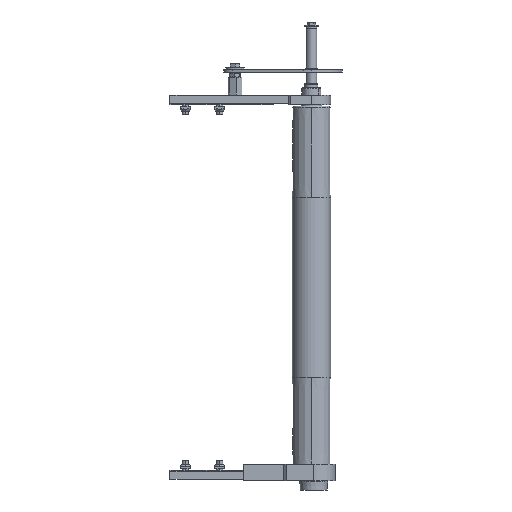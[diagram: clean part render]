
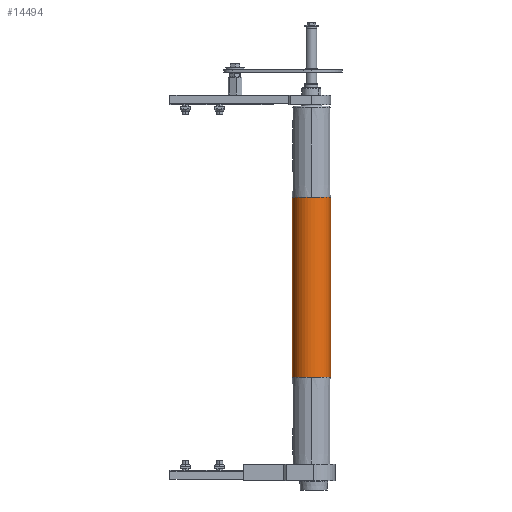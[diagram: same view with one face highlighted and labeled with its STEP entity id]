
A CAD part, front view. The second image highlights one B-rep face of the part: STEP entity #14494.
In plain terms, the highlighted cylindrical face has radius 25 mm (diameter 50 mm), a partial arc.
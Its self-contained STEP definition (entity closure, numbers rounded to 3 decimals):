
#274 = VERTEX_POINT ( 'NONE', #9108 ) ;
#720 = VERTEX_POINT ( 'NONE', #7704 ) ;
#1391 = VERTEX_POINT ( 'NONE', #17214 ) ;
#2630 = DIRECTION ( 'NONE',  ( -1., 0., 0. ) ) ;
#2857 = VECTOR ( 'NONE', #14802, 1000. ) ;
#3126 = CARTESIAN_POINT ( 'NONE',  ( 117.5, 0., -25. ) ) ;
#3199 = AXIS2_PLACEMENT_3D ( 'NONE', #8033, #4885, #6513 ) ;
#3386 = EDGE_CURVE ( 'NONE', #14508, #4621, #15448, .T. ) ;
#4242 = CARTESIAN_POINT ( 'NONE',  ( -117.5, 0., -25. ) ) ;
#4621 = VERTEX_POINT ( 'NONE', #4242 ) ;
#4721 = LINE ( 'NONE', #10922, #16574 ) ;
#4885 = DIRECTION ( 'NONE',  ( -1., 0., 0. ) ) ;
#6203 = DIRECTION ( 'NONE',  ( -1., 0., 0. ) ) ;
#6513 = DIRECTION ( 'NONE',  ( 0., -1., 0. ) ) ;
#6688 = EDGE_CURVE ( 'NONE', #7967, #4621, #4721, .T. ) ;
#7526 = DIRECTION ( 'NONE',  ( -1., 0., 0. ) ) ;
#7583 = DIRECTION ( 'NONE',  ( -1., 0., 0. ) ) ;
#7704 = CARTESIAN_POINT ( 'NONE',  ( -117.5, 0., 25. ) ) ;
#7967 = VERTEX_POINT ( 'NONE', #3126 ) ;
#8033 = CARTESIAN_POINT ( 'NONE',  ( -117.5, 0., 0. ) ) ;
#8524 = EDGE_CURVE ( 'NONE', #274, #720, #11759, .T. ) ;
#8790 = AXIS2_PLACEMENT_3D ( 'NONE', #15828, #6203, #10760 ) ;
#8892 = CARTESIAN_POINT ( 'NONE',  ( 117.5, 0., 0. ) ) ;
#9108 = CARTESIAN_POINT ( 'NONE',  ( 117.5, 0., 25. ) ) ;
#9707 = AXIS2_PLACEMENT_3D ( 'NONE', #8892, #10581, #16813 ) ;
#9879 = ORIENTED_EDGE ( 'NONE', *, *, #6688, .T. ) ;
#10581 = DIRECTION ( 'NONE',  ( -1., 0., 0. ) ) ;
#10760 = DIRECTION ( 'NONE',  ( 0., 0., 1. ) ) ;
#10897 = CARTESIAN_POINT ( 'NONE',  ( -117.5, 25., 0. ) ) ;
#10906 = CARTESIAN_POINT ( 'NONE',  ( -117.5, 0., 0. ) ) ;
#10922 = CARTESIAN_POINT ( 'NONE',  ( 235., 0., -25. ) ) ;
#11165 = CIRCLE ( 'NONE', #9707, 25. ) ;
#11271 = DIRECTION ( 'NONE',  ( 0., -1., 0. ) ) ;
#11759 = LINE ( 'NONE', #16349, #2857 ) ;
#11876 = ORIENTED_EDGE ( 'NONE', *, *, #13197, .T. ) ;
#13197 = EDGE_CURVE ( 'NONE', #1391, #7967, #11165, .T. ) ;
#13678 = ORIENTED_EDGE ( 'NONE', *, *, #3386, .F. ) ;
#13825 = CIRCLE ( 'NONE', #17624, 25. ) ;
#14494 = ADVANCED_FACE ( 'NONE', ( #15083 ), #20121, .T. ) ;
#14508 = VERTEX_POINT ( 'NONE', #10897 ) ;
#14802 = DIRECTION ( 'NONE',  ( -1., 0., 0. ) ) ;
#15083 = FACE_OUTER_BOUND ( 'NONE', #19662, .T. ) ;
#15182 = ORIENTED_EDGE ( 'NONE', *, *, #15761, .F. ) ;
#15441 = ORIENTED_EDGE ( 'NONE', *, *, #8524, .F. ) ;
#15448 = CIRCLE ( 'NONE', #16930, 25. ) ;
#15519 = CIRCLE ( 'NONE', #3199, 25. ) ;
#15761 = EDGE_CURVE ( 'NONE', #720, #14508, #15519, .T. ) ;
#15816 = ORIENTED_EDGE ( 'NONE', *, *, #17949, .T. ) ;
#15828 = CARTESIAN_POINT ( 'NONE',  ( 235., 0., 0. ) ) ;
#16349 = CARTESIAN_POINT ( 'NONE',  ( 235., 0., 25. ) ) ;
#16574 = VECTOR ( 'NONE', #7526, 1000. ) ;
#16813 = DIRECTION ( 'NONE',  ( 0., -1., 0. ) ) ;
#16930 = AXIS2_PLACEMENT_3D ( 'NONE', #10906, #7583, #17344 ) ;
#17214 = CARTESIAN_POINT ( 'NONE',  ( 117.5, 25., 0. ) ) ;
#17344 = DIRECTION ( 'NONE',  ( 0., -1., 0. ) ) ;
#17624 = AXIS2_PLACEMENT_3D ( 'NONE', #18580, #2630, #11271 ) ;
#17949 = EDGE_CURVE ( 'NONE', #274, #1391, #13825, .T. ) ;
#18580 = CARTESIAN_POINT ( 'NONE',  ( 117.5, 0., 0. ) ) ;
#19662 = EDGE_LOOP ( 'NONE', ( #15816, #11876, #9879, #13678, #15182, #15441 ) ) ;
#20121 = CYLINDRICAL_SURFACE ( 'NONE', #8790, 25. ) ;
